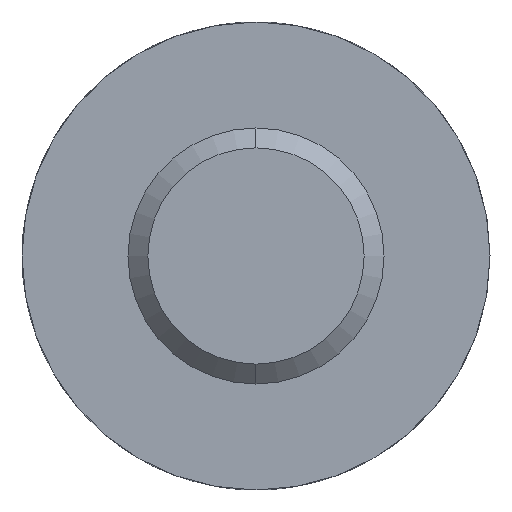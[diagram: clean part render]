
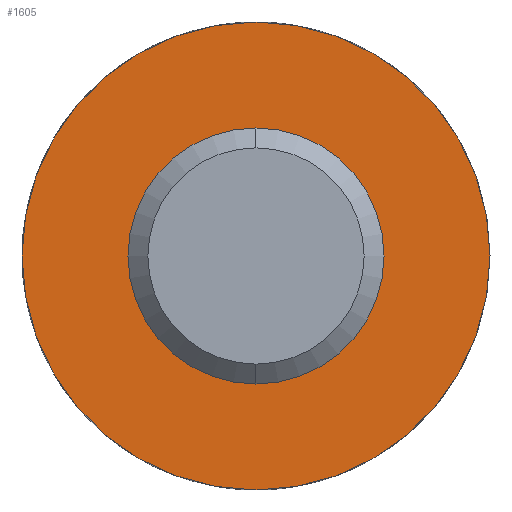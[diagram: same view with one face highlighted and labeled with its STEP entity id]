
A CAD part, left-side view. The second image highlights one B-rep face of the part: STEP entity #1605.
In plain terms, the highlighted planar face has unit normal (-1, 0, 0).
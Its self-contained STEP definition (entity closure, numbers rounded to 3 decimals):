
#39 = DIRECTION ( 'NONE',  ( 0., 0., -1. ) ) ;
#41 = DIRECTION ( 'NONE',  ( 1., 0., 0. ) ) ;
#51 = PLANE ( 'NONE',  #1514 ) ;
#78 = CARTESIAN_POINT ( 'NONE',  ( -4.845, 2.65, 0. ) ) ;
#114 = CARTESIAN_POINT ( 'NONE',  ( -4.845, 0., -2.65 ) ) ;
#255 = CARTESIAN_POINT ( 'NONE',  ( -4.845, 0., 0. ) ) ;
#369 = CIRCLE ( 'NONE', #1300, 2.65 ) ;
#478 = CIRCLE ( 'NONE', #1871, 2.65 ) ;
#563 = DIRECTION ( 'NONE',  ( 0., 0., 1. ) ) ;
#605 = CIRCLE ( 'NONE', #723, 1.25 ) ;
#617 = VERTEX_POINT ( 'NONE', #903 ) ;
#621 = CARTESIAN_POINT ( 'NONE',  ( -4.845, 0., 0. ) ) ;
#705 = VERTEX_POINT ( 'NONE', #114 ) ;
#723 = AXIS2_PLACEMENT_3D ( 'NONE', #1922, #871, #2082 ) ;
#805 = ORIENTED_EDGE ( 'NONE', *, *, #1759, .F. ) ;
#856 = DIRECTION ( 'NONE',  ( -1., 0., 0. ) ) ;
#871 = DIRECTION ( 'NONE',  ( -1., 0., 0. ) ) ;
#903 = CARTESIAN_POINT ( 'NONE',  ( -4.845, 0., 2.65 ) ) ;
#904 = VERTEX_POINT ( 'NONE', #1735 ) ;
#972 = VERTEX_POINT ( 'NONE', #1621 ) ;
#987 = DIRECTION ( 'NONE',  ( -1., 0., 0. ) ) ;
#1140 = DIRECTION ( 'NONE',  ( 0., 0., 1. ) ) ;
#1300 = AXIS2_PLACEMENT_3D ( 'NONE', #621, #987, #563 ) ;
#1430 = CARTESIAN_POINT ( 'NONE',  ( -4.845, 0., 0. ) ) ;
#1475 = ORIENTED_EDGE ( 'NONE', *, *, #1806, .T. ) ;
#1514 = AXIS2_PLACEMENT_3D ( 'NONE', #78, #41, #39 ) ;
#1526 = EDGE_LOOP ( 'NONE', ( #1475, #1859 ) ) ;
#1594 = ORIENTED_EDGE ( 'NONE', *, *, #1924, .F. ) ;
#1605 = ADVANCED_FACE ( 'NONE', ( #1930, #1761 ), #51, .F. ) ;
#1621 = CARTESIAN_POINT ( 'NONE',  ( -4.845, 0., 1.25 ) ) ;
#1697 = DIRECTION ( 'NONE',  ( -1., 0., 0. ) ) ;
#1735 = CARTESIAN_POINT ( 'NONE',  ( -4.845, 0., -1.25 ) ) ;
#1759 = EDGE_CURVE ( 'NONE', #972, #904, #605, .T. ) ;
#1761 = FACE_OUTER_BOUND ( 'NONE', #1526, .T. ) ;
#1778 = AXIS2_PLACEMENT_3D ( 'NONE', #255, #856, #1140 ) ;
#1806 = EDGE_CURVE ( 'NONE', #617, #705, #369, .T. ) ;
#1845 = CIRCLE ( 'NONE', #1778, 1.25 ) ;
#1859 = ORIENTED_EDGE ( 'NONE', *, *, #1915, .T. ) ;
#1871 = AXIS2_PLACEMENT_3D ( 'NONE', #1430, #1697, #2121 ) ;
#1915 = EDGE_CURVE ( 'NONE', #705, #617, #478, .T. ) ;
#1922 = CARTESIAN_POINT ( 'NONE',  ( -4.845, 0., 0. ) ) ;
#1924 = EDGE_CURVE ( 'NONE', #904, #972, #1845, .T. ) ;
#1930 = FACE_BOUND ( 'NONE', #1959, .T. ) ;
#1959 = EDGE_LOOP ( 'NONE', ( #805, #1594 ) ) ;
#2082 = DIRECTION ( 'NONE',  ( 0., 0., 1. ) ) ;
#2121 = DIRECTION ( 'NONE',  ( 0., 0., 1. ) ) ;
